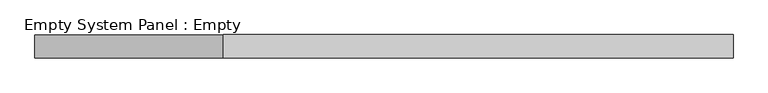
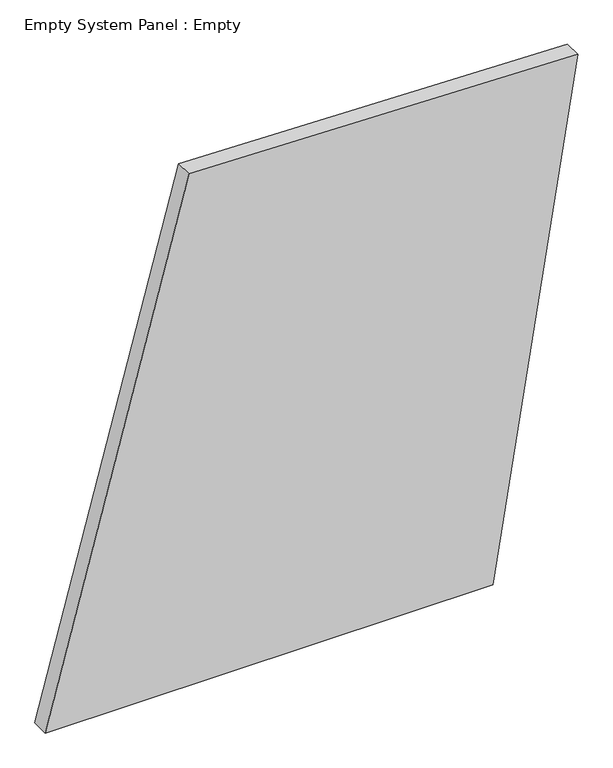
"""IFC4 building model written with IfcOpenShell, lengths in millimetres: plate geometry, Empty System Panel : Empty."""

import ifcopenshell
import ifcopenshell.guid

model = None  # the IFC model being written
_history = None  # IfcOwnerHistory: only IFC2X3 demands one
_inside = {}  # id of a spatial element -> (the spatial element, [elements in it])
_under = {}  # id of a project, library or spatial element -> (it, [spatial elements below it])
_declared = {}  # id of a project -> (the project, [libraries it declares])
_typed = {}  # id of a type object -> (the type object, [elements of that type])
_made_of = {}  # id of a material, layer set ... -> (it, [elements and type objects made of it])


def new_model(schema):
    """Start an empty IFC model of exactly this schema.

    Asked for "IFC4X3", IfcOpenShell would pick the latest addendum, in which some entities
    have other attributes; the version numbers below select the first issue.
    IFC2X3 requires an IfcOwnerHistory on every rooted entity: one is made here for all.
    """
    global model, _history
    if schema == "IFC4X3":
        model = ifcopenshell.file(schema_version=(4, 3, 0, 0))
    else:
        model = ifcopenshell.file(schema=schema)
    _inside.clear()
    _under.clear()
    _declared.clear()
    _typed.clear()
    _made_of.clear()
    _history = None
    if model.schema == "IFC2X3":
        org = make("IfcOrganization", Name="unknown")
        user = make(
            "IfcPersonAndOrganization",
            ThePerson=make("IfcPerson", FamilyName="unknown"),
            TheOrganization=org,
        )
        app = make(
            "IfcApplication",
            ApplicationDeveloper=org,
            Version="unknown",
            ApplicationFullName="unknown",
            ApplicationIdentifier="unknown",
        )
        _history = make(
            "IfcOwnerHistory",
            OwningUser=user,
            OwningApplication=app,
            ChangeAction="ADDED",
            CreationDate=0,
        )
    return model


def make(cls, **values):
    """One entity of the class cls with the attributes given. An attribute that is None is left unset."""
    return model.create_entity(
        cls, **{name: value for name, value in values.items() if value is not None}
    )


def rooted(cls, **values):
    """An entity with a GlobalId (a new one), such as an element, a storey or a relation."""
    return make(cls, GlobalId=ifcopenshell.guid.new(), OwnerHistory=_history, **values)


def si_unit(unit_type, name, prefix=None):
    """IfcSIUnit, for example si_unit("LENGTHUNIT", "METRE", prefix="MILLI")."""
    return make("IfcSIUnit", UnitType=unit_type, Prefix=prefix, Name=name)


def assignment(units):
    """IfcUnitAssignment: the units of a project."""
    return None if units is None else make("IfcUnitAssignment", Units=units)


def point(xyz):
    """IfcCartesianPoint."""
    return None if xyz is None else make("IfcCartesianPoint", Coordinates=xyz)


def direction(xyz):
    """IfcDirection."""
    return None if xyz is None else make("IfcDirection", DirectionRatios=xyz)


def frame(location, z_axis=None, x_axis=None):
    """IfcAxis2Placement3D, a coordinate frame: its origin and axes. An axis left out is left unset."""
    return make(
        "IfcAxis2Placement3D",
        Location=point(location),
        Axis=direction(z_axis),
        RefDirection=direction(x_axis),
    )


def origin():
    """The frame at (0, 0, 0) with its axes left unset."""
    return frame((0.0, 0.0, 0.0))


def place(relative_to, where):
    """IfcLocalPlacement: puts the frame where relative to a parent placement (None: the world)."""
    return make(
        "IfcLocalPlacement", PlacementRelTo=relative_to, RelativePlacement=where
    )


def context(
    kind, dimensions, precision=None, world=None, true_north=None, identifier=None
):
    """IfcGeometricRepresentationContext, for example the 3D "Model" context."""
    return make(
        "IfcGeometricRepresentationContext",
        ContextIdentifier=identifier,
        ContextType=kind,
        CoordinateSpaceDimension=dimensions,
        Precision=precision,
        WorldCoordinateSystem=world,
        TrueNorth=true_north,
    )


def project(units=None, contexts=None):
    """IfcProject with its units and contexts."""
    return rooted(
        "IfcProject",
        Name="project",
        RepresentationContexts=contexts,
        UnitsInContext=assignment(units),
    )


def spatial(cls, under=None, at=None, **own):
    """A site, building, storey or space (cls), placed at a placement, below another one or the project."""
    s = rooted(cls, ObjectPlacement=at, **own)
    if under is not None:
        _under.setdefault(under.id(), (under, []))[1].append(s)
    return s


def polyline(points):
    """IfcPolyline through the points."""
    return make("IfcPolyline", Points=[point(p) for p in points])


def outline(outer, holes=None, kind="AREA"):
    """IfcArbitraryClosedProfileDef: a profile drawn as a closed curve; with holes, ...WithVoids."""
    if holes is None:
        return make("IfcArbitraryClosedProfileDef", ProfileType=kind, OuterCurve=outer)
    return make(
        "IfcArbitraryProfileDefWithVoids",
        ProfileType=kind,
        OuterCurve=outer,
        InnerCurves=holes,
    )


def extrude(swept, where, along, depth):
    """IfcExtrudedAreaSolid: the profile swept, set in the frame where, extruded along a direction by depth."""
    return make(
        "IfcExtrudedAreaSolid",
        SweptArea=swept,
        Position=where,
        ExtrudedDirection=direction(along),
        Depth=depth,
    )


def shape(context_of_items, identifier, shape_type, items):
    """IfcShapeRepresentation: the items that make up one representation, for example the "Body"."""
    return make(
        "IfcShapeRepresentation",
        ContextOfItems=context_of_items,
        RepresentationIdentifier=identifier,
        RepresentationType=shape_type,
        Items=items,
    )


def source(mapping_origin, context_of_items, identifier, shape_type, items):
    """IfcRepresentationMap: a shape defined once, which mapped items show again and again."""
    return make(
        "IfcRepresentationMap",
        MappingOrigin=mapping_origin,
        MappedRepresentation=shape(context_of_items, identifier, shape_type, items),
    )


def transform(
    local_origin,
    x_axis=None,
    y_axis=None,
    z_axis=None,
    scale=None,
    scale2=None,
    scale3=None,
    uniform=True,
):
    """IfcCartesianTransformationOperator3D, or its non-uniform kind. x_axis, y_axis, z_axis: its Axis1, 2, 3."""
    if uniform:
        return make(
            "IfcCartesianTransformationOperator3D",
            Axis1=direction(x_axis),
            Axis2=direction(y_axis),
            LocalOrigin=point(local_origin),
            Scale=scale,
            Axis3=direction(z_axis),
        )
    return make(
        "IfcCartesianTransformationOperator3DnonUniform",
        Axis1=direction(x_axis),
        Axis2=direction(y_axis),
        LocalOrigin=point(local_origin),
        Scale=scale,
        Axis3=direction(z_axis),
        Scale2=scale2,
        Scale3=scale3,
    )


def mapped(mapping_source, mapping_target):
    """IfcMappedItem: shows the shape of a source again, moved by a transform."""
    return make(
        "IfcMappedItem", MappingSource=mapping_source, MappingTarget=mapping_target
    )


def made_of(thing, what):
    """Note that an element or type object is made of a material, layer set ...; save() writes the relation."""
    if what is not None:
        _made_of.setdefault(what.id(), (what, []))[1].append(thing)
    return thing


def element(
    cls,
    number,
    at=None,
    inside=None,
    cuts=None,
    type_object=None,
    material=None,
    context=None,
    identifier="Body",
    shape_type=None,
    held_by="IfcProductDefinitionShape",
    body=None,
    shapes=None,
    **own,
):
    """One element of the class cls, such as IfcWall. Its Tag is "e" and its number.

    at: its placement. inside: the storey or other place that contains it. cuts: it is an
    opening in that element (IfcRelVoidsElement). A single representation is given by context,
    identifier, shape_type and body (its items); several are given by shapes. held_by: the class
    of the entity that holds the representations. save() writes the other relations.
    """
    e = rooted(cls, Tag="e%d" % number, ObjectPlacement=at, **own)
    if body is not None:
        shapes = [shape(context, identifier, shape_type, body)]
    if shapes is not None:
        e.Representation = make(held_by, Representations=shapes)
    if inside is not None:
        _inside.setdefault(inside.id(), (inside, []))[1].append(e)
    if cuts is not None:
        rooted(
            "IfcRelVoidsElement", RelatingBuildingElement=cuts, RelatedOpeningElement=e
        )
    if type_object is not None:
        _typed.setdefault(type_object.id(), (type_object, []))[1].append(e)
    return made_of(e, material)


def aggregate(whole, parts):
    """IfcRelAggregates: a whole, such as a stair, and the parts it consists of."""
    return rooted("IfcRelAggregates", RelatingObject=whole, RelatedObjects=parts)


def save(model, path):
    """Write the relations noted so far, then the file.

    IfcRelAggregates (storeys below a building ...), IfcRelContainedInSpatialStructure (elements
    in a storey), IfcRelDefinesByType, IfcRelAssociatesMaterial and IfcRelDeclares: one each for
    every whole, place, type object, material and project.
    """
    for whole, parts in _under.values():
        aggregate(whole, parts)
    for where, things in _inside.values():
        rooted(
            "IfcRelContainedInSpatialStructure",
            RelatedElements=things,
            RelatingStructure=where,
        )
    for kind, things in _typed.values():
        rooted("IfcRelDefinesByType", RelatedObjects=things, RelatingType=kind)
    for what, things in _made_of.values():
        rooted("IfcRelAssociatesMaterial", RelatedObjects=things, RelatingMaterial=what)
    for by, libraries in _declared.values():
        rooted("IfcRelDeclares", RelatingContext=by, RelatedDefinitions=libraries)
    model.write(path)


def empty_system_panel_empty_2f8f1f17(model_context):
    return source(origin(), model_context, "Body", "SweptSolid", [
        extrude(outline(polyline([(0.0, -1516.3053041), (0.0, 1034.5158778), (3020.5907547, 1516.3053041), (3076.8085713, -697.4266313), (0.0, -1516.3053041)])), frame((0.0, -50.8, 0.0), z_axis=(0.0, 1.0, 0.0), x_axis=(0.0, 0.0, 1.0)), (0.0, 0.0, 1.0), 101.6),
    ])


if __name__ == "__main__":
    model = new_model("IFC4")
    model_context = context("Model", 3, world=origin())
    ifc_project = project(units=[si_unit("LENGTHUNIT", "METRE", prefix="MILLI")], contexts=[model_context])
    site = spatial("IfcSite", under=ifc_project)
    building = spatial("IfcBuilding", under=site)
    placement = place(None, origin())
    empty_system_panel_empty_shape = empty_system_panel_empty_2f8f1f17(model_context)
    element("IfcPlate", 1, ObjectType="Empty System Panel : Empty", at=placement, inside=building, context=model_context, shape_type="MappedRepresentation", body=[
        mapped(empty_system_panel_empty_shape, transform((0.0, 0.0, 0.0), x_axis=(1.0, 0.0, 0.0), y_axis=(0.0, 1.0, 0.0), z_axis=(0.0, 0.0, 1.0))),
    ])
    save(model, "model.ifc")
